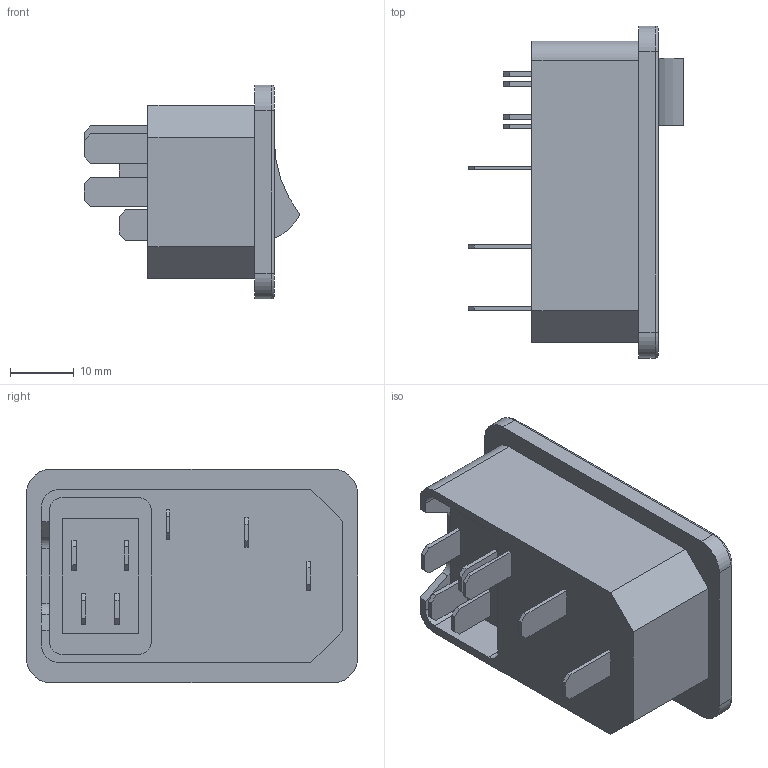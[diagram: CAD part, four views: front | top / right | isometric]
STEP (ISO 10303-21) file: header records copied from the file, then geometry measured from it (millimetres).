
FILE_DESCRIPTION (( 'STEP AP214' ), '1' );
FILE_NAME ('AC_socket.STEP', '2015-02-26T22:54:35', ( '' ), ( '' ), '', '', '' );
FILE_SCHEMA (( '' ));
Length unit declared in the file: millimetre
Products named in the file (1): AC_socket
Bounding box: 33.8 x 51.95 x 33.51 mm (x, y, z)
Volume: 16612.3 mm3; surface area: 10727.7 mm2
Topology: 1 solids, 1 shells, 157 faces, 391 edges, 252 vertices
Faces by surface type: plane 127, cylinder 26, torus 4
Entity records: 5496 total; most frequent: CARTESIAN_POINT 801, ORIENTED_EDGE 782, DIRECTION 763, EDGE_CURVE 391, LINE 335, VECTOR 335, VERTEX_POINT 252, AXIS2_PLACEMENT_3D 214
